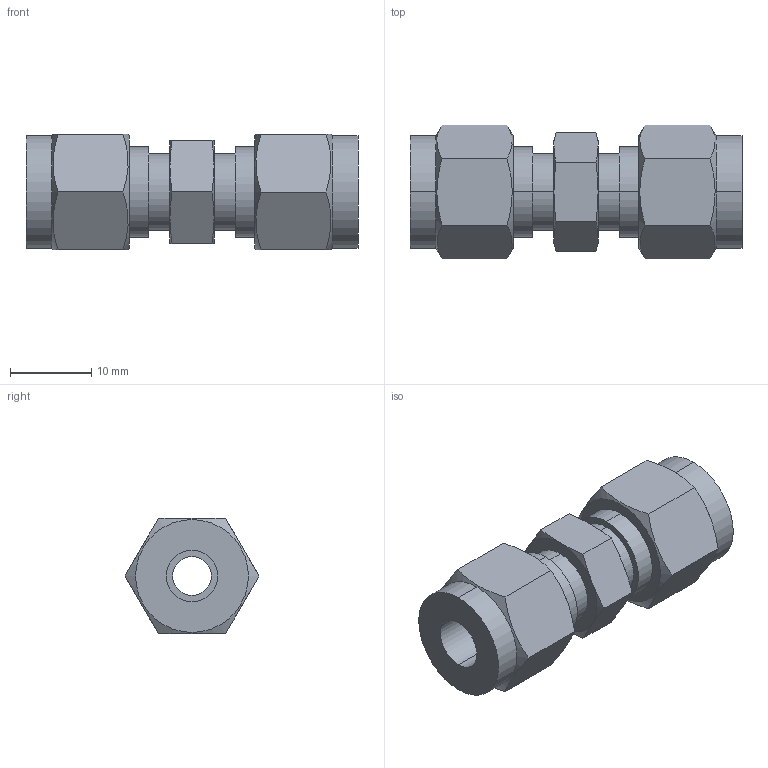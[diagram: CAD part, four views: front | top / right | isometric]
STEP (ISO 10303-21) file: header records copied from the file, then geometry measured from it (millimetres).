
FILE_DESCRIPTION (( 'STEP AP203' ), '1' );
FILE_NAME ('DUA04 SS.STEP', '2009-09-08T10:21:50', ( ' ' ), ( '' ), 'SwSTEP 2.0', 'SolidWorks 2008', '' );
FILE_SCHEMA (( 'CONFIG_CONTROL_DESIGN' ));
Length unit declared in the file: millimetre
Products named in the file (1): DUA04 SS
Bounding box: 40.9 x 16.5 x 14.29 mm (x, y, z)
Volume: 4744.8 mm3; surface area: 3163.3 mm2
Topology: 1 solids, 1 shells, 66 faces, 152 edges, 96 vertices
Faces by surface type: plane 28, cone 20, cylinder 18
Entity records: 2165 total; most frequent: CARTESIAN_POINT 651, ORIENTED_EDGE 304, DIRECTION 282, EDGE_CURVE 152, AXIS2_PLACEMENT_3D 119, VERTEX_POINT 96, EDGE_LOOP 76, ADVANCED_FACE 66
